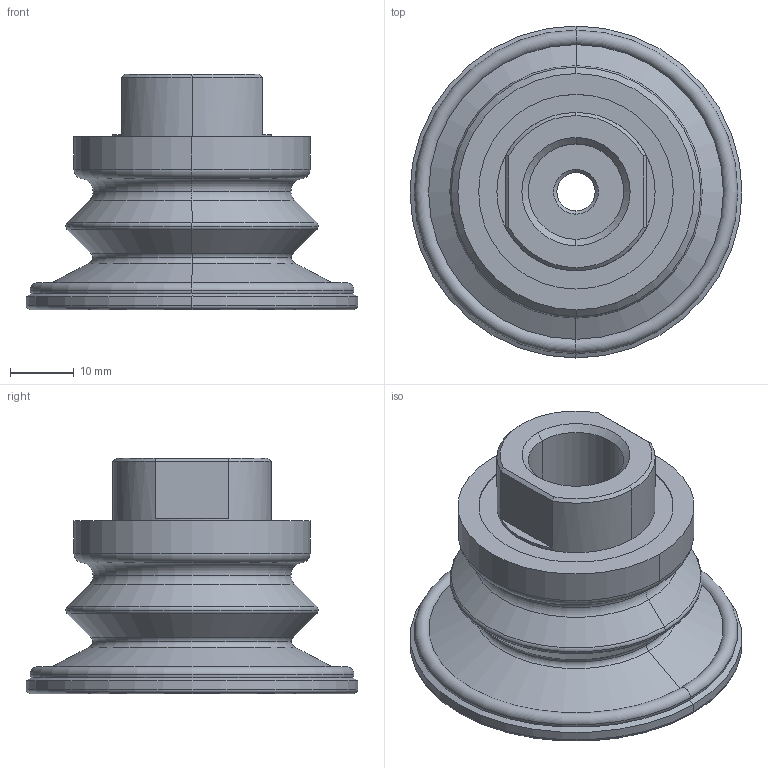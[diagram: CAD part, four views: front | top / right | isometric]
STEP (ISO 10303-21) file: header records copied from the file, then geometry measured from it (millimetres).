
FILE_DESCRIPTION(('STEP AP214'),'1');
FILE_NAME('10_01_06_00672.stp','2020-10-24T00:23:04',('TraceParts'),('TraceParts S.A.'),'Spatial InterOp 3D',' ',' ');
FILE_SCHEMA(('AUTOMOTIVE_DESIGN { 1 0 10303 214 1 1 1 1 }'));
Length unit declared in the file: millimetre
Products named in the file (1): 10_01_06_00672
Bounding box: 52 x 52 x 36.93 mm (x, y, z)
Volume: 30356.2 mm3; surface area: 10280.8 mm2
Topology: 1 solids, 1 shells, 73 faces, 150 edges, 84 vertices
Faces by surface type: torus 22, cone 20, cylinder 18, plane 13
Entity records: 2537 total; most frequent: DIRECTION 394, CARTESIAN_POINT 320, ORIENTED_EDGE 300, AXIS2_PLACEMENT_3D 174, EDGE_CURVE 150, CIRCLE 100, VERTEX_POINT 84, EDGE_LOOP 80
